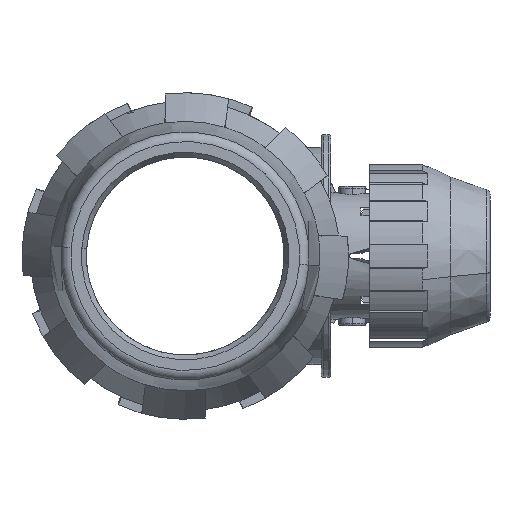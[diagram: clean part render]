
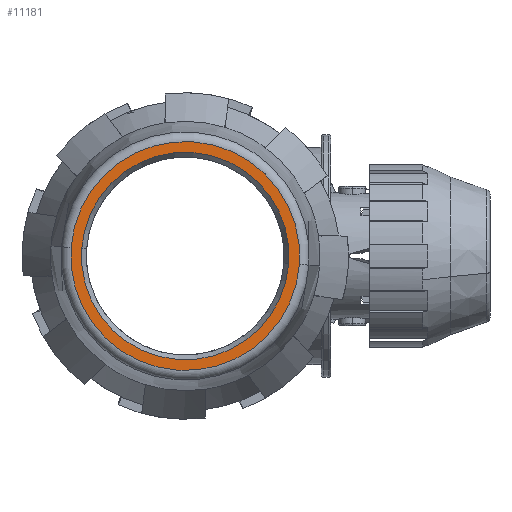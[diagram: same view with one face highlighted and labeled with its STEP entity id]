
A CAD part, left-side view. The second image highlights one B-rep face of the part: STEP entity #11181.
In plain terms, the highlighted planar face has unit normal (-1, 0, 0).
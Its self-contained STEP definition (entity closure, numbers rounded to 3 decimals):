
#475 = DIRECTION ( 'NONE',  ( -1., 0., 0. ) ) ;
#647 = CIRCLE ( 'NONE', #8171, 23.6 ) ;
#750 = CARTESIAN_POINT ( 'NONE',  ( -100., 0., 0. ) ) ;
#1128 = DIRECTION ( 'NONE',  ( -1., 0., 0. ) ) ;
#2915 = ORIENTED_EDGE ( 'NONE', *, *, #6325, .F. ) ;
#3129 = EDGE_LOOP ( 'NONE', ( #6236, #2915 ) ) ;
#3656 = PLANE ( 'NONE',  #8842 ) ;
#3856 = CIRCLE ( 'NONE', #11369, 23.6 ) ;
#5057 = ORIENTED_EDGE ( 'NONE', *, *, #10190, .T. ) ;
#5682 = EDGE_CURVE ( 'NONE', #23890, #19304, #25298, .T. ) ;
#5851 = DIRECTION ( 'NONE',  ( 0., 0.997, 0.074 ) ) ;
#5874 = DIRECTION ( 'NONE',  ( 0., -0.997, -0.074 ) ) ;
#6236 = ORIENTED_EDGE ( 'NONE', *, *, #5682, .F. ) ;
#6267 = DIRECTION ( 'NONE',  ( -1., 0., 0. ) ) ;
#6325 = EDGE_CURVE ( 'NONE', #19304, #23890, #6578, .T. ) ;
#6578 = CIRCLE ( 'NONE', #7062, 21.386 ) ;
#7062 = AXIS2_PLACEMENT_3D ( 'NONE', #21064, #6267, #25579 ) ;
#8171 = AXIS2_PLACEMENT_3D ( 'NONE', #24910, #475, #9475 ) ;
#8842 = AXIS2_PLACEMENT_3D ( 'NONE', #19289, #28060, #5874 ) ;
#9475 = DIRECTION ( 'NONE',  ( 0., 0.997, 0.074 ) ) ;
#9756 = DIRECTION ( 'NONE',  ( -1., 0., 0. ) ) ;
#10190 = EDGE_CURVE ( 'NONE', #13937, #23018, #3856, .T. ) ;
#10803 = CARTESIAN_POINT ( 'NONE',  ( -100., -21.328, -1.582 ) ) ;
#11181 = ADVANCED_FACE ( 'NONE', ( #19135, #18858 ), #3656, .F. ) ;
#11369 = AXIS2_PLACEMENT_3D ( 'NONE', #15115, #1128, #5851 ) ;
#11929 = EDGE_CURVE ( 'NONE', #23018, #13937, #647, .T. ) ;
#13937 = VERTEX_POINT ( 'NONE', #28907 ) ;
#14985 = AXIS2_PLACEMENT_3D ( 'NONE', #750, #9756, #18754 ) ;
#15115 = CARTESIAN_POINT ( 'NONE',  ( -100., 0., 0. ) ) ;
#18366 = ORIENTED_EDGE ( 'NONE', *, *, #11929, .T. ) ;
#18754 = DIRECTION ( 'NONE',  ( 0., 0.997, 0.074 ) ) ;
#18837 = CARTESIAN_POINT ( 'NONE',  ( -100., 21.328, 1.582 ) ) ;
#18858 = FACE_OUTER_BOUND ( 'NONE', #23330, .T. ) ;
#19135 = FACE_BOUND ( 'NONE', #3129, .T. ) ;
#19289 = CARTESIAN_POINT ( 'NONE',  ( -100., 0., 0. ) ) ;
#19304 = VERTEX_POINT ( 'NONE', #10803 ) ;
#21064 = CARTESIAN_POINT ( 'NONE',  ( -100., 0., 0. ) ) ;
#23018 = VERTEX_POINT ( 'NONE', #27730 ) ;
#23330 = EDGE_LOOP ( 'NONE', ( #5057, #18366 ) ) ;
#23890 = VERTEX_POINT ( 'NONE', #18837 ) ;
#24910 = CARTESIAN_POINT ( 'NONE',  ( -100., 0., 0. ) ) ;
#25298 = CIRCLE ( 'NONE', #14985, 21.386 ) ;
#25579 = DIRECTION ( 'NONE',  ( 0., 0.997, 0.074 ) ) ;
#27730 = CARTESIAN_POINT ( 'NONE',  ( -100., -23.535, -1.745 ) ) ;
#28060 = DIRECTION ( 'NONE',  ( 1., 0., 0. ) ) ;
#28907 = CARTESIAN_POINT ( 'NONE',  ( -100., 23.535, 1.745 ) ) ;
